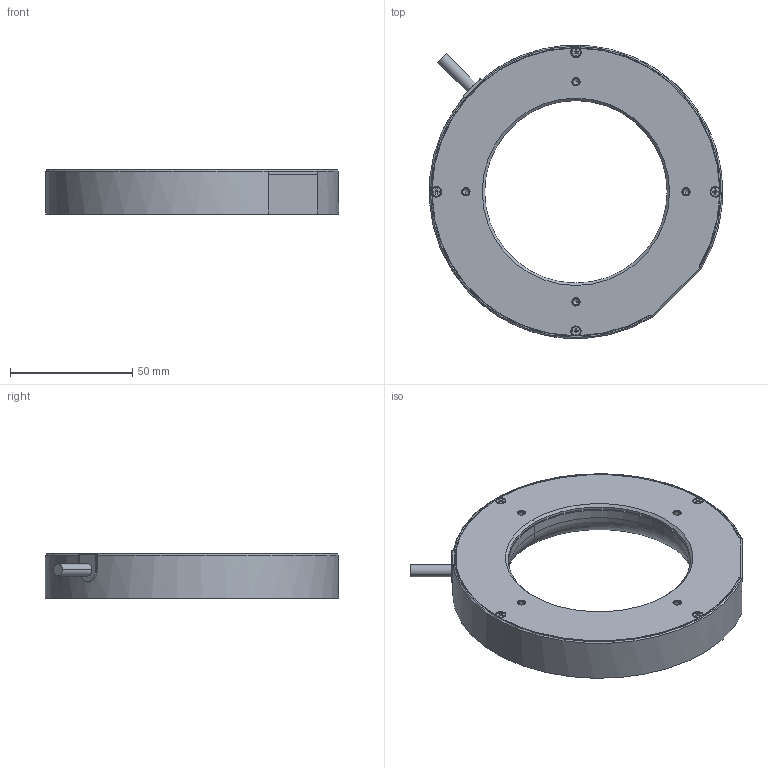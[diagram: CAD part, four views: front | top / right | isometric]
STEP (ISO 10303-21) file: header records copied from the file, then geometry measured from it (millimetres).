
FILE_DESCRIPTION((''),'2;1');
FILE_NAME('LS-LRSS-H-120-W','2024-03-29T18:27:40',('LumaSpec Vision'),('LumaSpec Vision'),'CREO PARAMETRIC BY PTC INC, 2020044','CREO PARAMETRIC BY PTC INC, 2020044','');
FILE_SCHEMA(('CONFIG_CONTROL_DESIGN'));
Length unit declared in the file: millimetre
Products named in the file (1): LS-LRSS-H-120-W
Bounding box: 119.85 x 119.82 x 18 mm (x, y, z)
Volume: 110755 mm3; surface area: 39768.9 mm2
Topology: 1 solids, 45 shells, 658 faces, 1586 edges, 968 vertices
Faces by surface type: plane 303, cylinder 221, cone 104, torus 24, sphere 6
Entity records: 21757 total; most frequent: CARTESIAN_POINT 6554, DIRECTION 3237, ORIENTED_EDGE 3000, EDGE_CURVE 1548, AXIS2_PLACEMENT_3D 1214, VERTEX_POINT 968, VECTOR 809, LINE 809
